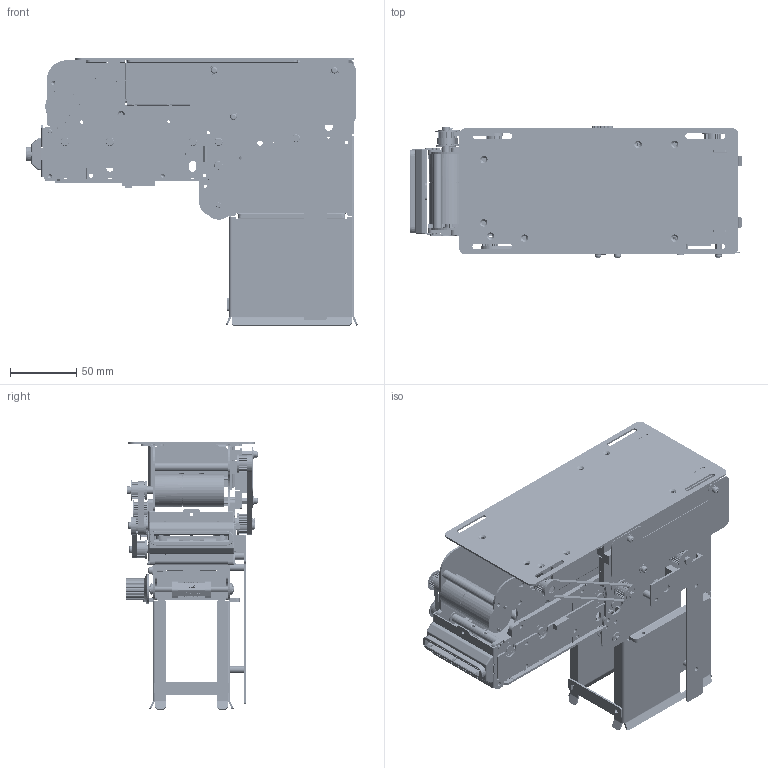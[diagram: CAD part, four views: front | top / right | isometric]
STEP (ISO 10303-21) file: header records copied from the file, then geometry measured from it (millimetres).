
FILE_DESCRIPTION((''),'2;1');
FILE_NAME('K750-L-9','2025-01-11T',('TTCE'),(''),'CREO PARAMETRIC BY PTC INC, 2014190','CREO PARAMETRIC BY PTC INC, 2014190','');
FILE_SCHEMA(('CONFIG_CONTROL_DESIGN'));
Products named in the file (1): K750-L-9
Bounding box: 249.69 x 98.8 x 201.07 mm (x, y, z)
Surface area: 335022.5 mm2 (no closed solid volume)
Topology: 0 solids, 33 shells, 5951 faces, 16650 edges, 10868 vertices
Faces by surface type: plane 3493, cylinder 2181, cone 120, bspline 77, torus 72, sphere 8
Entity records: 199610 total; most frequent: CARTESIAN_POINT 43147, ORIENTED_EDGE 33236, DIRECTION 32297, EDGE_CURVE 16630, VECTOR 11079, LINE 11079, VERTEX_POINT 10868, AXIS2_PLACEMENT_3D 10609
